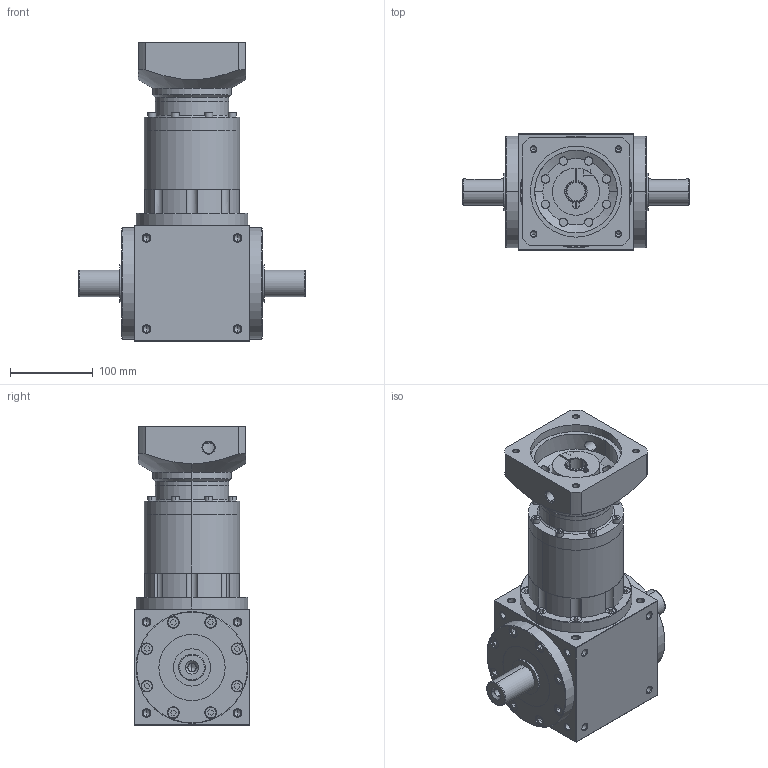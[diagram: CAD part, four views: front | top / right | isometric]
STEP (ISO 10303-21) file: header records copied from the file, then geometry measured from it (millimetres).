
FILE_DESCRIPTION (( 'STEP AP203' ), '1' );
FILE_NAME ('AT140-FL-L4-22-110-145M8.STEP', '2026-01-05T06:02:41', ( 'Windows User' ), ( 'P R C' ), 'SwSTEP 2.0', 'SolidWorks 2016', '' );
FILE_SCHEMA (( 'CONFIG_CONTROL_DESIGN' ));
Length unit declared in the file: millimetre
Products named in the file (8): AT140转角箱体-双轴输出; AT140-蛌倰怀堤楊擘; AT140-双级齿圈; AT140-输入法兰-F-110-M8-145; 输入胀套-27; 输入轴套-24-22; AT140H-双级齿圈; AT140-FL-L4-22-110-145M8
Assembly tree (7 placements, depth 2):
  AT140-FL-L4-22-110-145M8
    AT140转角箱体-双轴输出
    AT140-蛌倰怀堤楊擘
    AT140-双级齿圈
    AT140-输入法兰-F-110-M8-145
    输入胀套-27
    输入轴套-24-22
    AT140H-双级齿圈
Bounding box: 274 x 140 x 361 mm (x, y, z)
Volume: 4049364.1 mm3; surface area: 474583.3 mm2
Topology: 7 solids, 19 shells, 1657 faces, 4181 edges, 2640 vertices
Faces by surface type: plane 891, cylinder 384, cone 244, bspline 138
Entity records: 55710 total; most frequent: CARTESIAN_POINT 16351, ORIENTED_EDGE 8170, DIRECTION 7499, EDGE_CURVE 4085, VECTOR 2749, LINE 2749, VERTEX_POINT 2640, AXIS2_PLACEMENT_3D 2375
